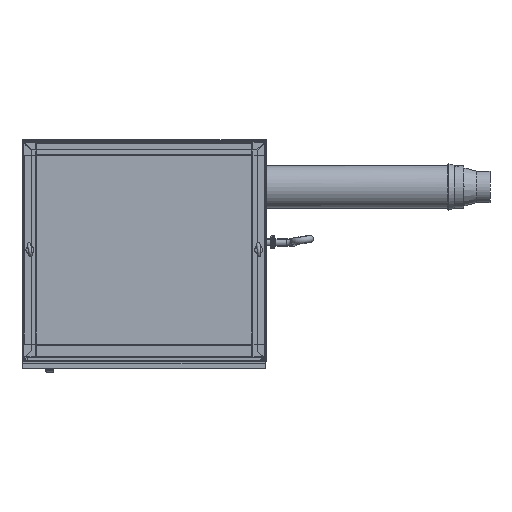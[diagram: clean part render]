
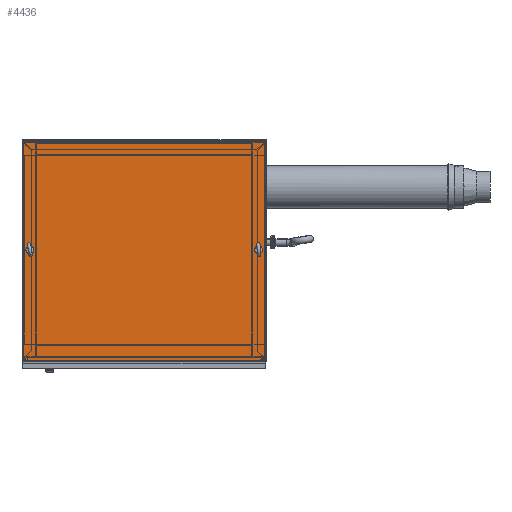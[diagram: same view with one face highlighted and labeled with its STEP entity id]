
A CAD part, top view. The second image highlights one B-rep face of the part: STEP entity #4436.
In plain terms, the highlighted planar face has unit normal (0, 0, 1).
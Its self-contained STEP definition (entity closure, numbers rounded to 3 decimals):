
#4436=ADVANCED_FACE('',(#20203,#20205,#20207),#20209,.T.);
#20203=FACE_BOUND('',#20204,.T.);
#20204=EDGE_LOOP('',(#38122,#38123,#38124,#38125,#38126,#38127,#38128,#38129));
#20205=FACE_BOUND('',#20206,.T.);
#20206=EDGE_LOOP('',(#38130));
#20207=FACE_BOUND('',#20208,.T.);
#20208=EDGE_LOOP('',(#38131));
#20209=PLANE('',#20210);
#20210=AXIS2_PLACEMENT_3D('',#20211,#20212,#20213);
#20211=CARTESIAN_POINT('',(-874.5,781.,54.5));
#20212=DIRECTION('',(0.,0.,1.));
#20213=DIRECTION('',(1.,0.,0.));
#38122=ORIENTED_EDGE('',*,*,#45509,.T.);
#38123=ORIENTED_EDGE('',*,*,#45600,.T.);
#38124=ORIENTED_EDGE('',*,*,#45501,.T.);
#38125=ORIENTED_EDGE('',*,*,#45134,.T.);
#38126=ORIENTED_EDGE('',*,*,#45519,.T.);
#38127=ORIENTED_EDGE('',*,*,#45601,.T.);
#38128=ORIENTED_EDGE('',*,*,#45512,.T.);
#38129=ORIENTED_EDGE('',*,*,#45602,.T.);
#38130=ORIENTED_EDGE('',*,*,#45603,.F.);
#38131=ORIENTED_EDGE('',*,*,#45604,.F.);
#45134=EDGE_CURVE('',#50143,#50144,#50145,.T.);
#45501=EDGE_CURVE('',#50688,#50143,#50691,.T.);
#45509=EDGE_CURVE('',#50701,#50703,#50705,.T.);
#45512=EDGE_CURVE('',#50706,#50708,#50710,.T.);
#45519=EDGE_CURVE('',#50144,#50720,#50722,.T.);
#45600=EDGE_CURVE('',#50703,#50688,#50842,.T.);
#45601=EDGE_CURVE('',#50720,#50706,#50843,.T.);
#45602=EDGE_CURVE('',#50708,#50701,#50844,.T.);
#45603=EDGE_CURVE('',#50845,#50845,#50846,.T.);
#45604=EDGE_CURVE('',#50847,#50847,#50848,.T.);
#50143=VERTEX_POINT('',#59944);
#50144=VERTEX_POINT('',#59945);
#50145=LINE('',#59946,#59947);
#50688=VERTEX_POINT('',#62042);
#50691=CIRCLE('',#62049,1.5);
#50701=VERTEX_POINT('',#62116);
#50703=VERTEX_POINT('',#62120);
#50705=CIRCLE('',#62124,1.5);
#50706=VERTEX_POINT('',#62128);
#50708=VERTEX_POINT('',#62132);
#50710=CIRCLE('',#62136,1.5);
#50720=VERTEX_POINT('',#62203);
#50722=CIRCLE('',#62207,1.5);
#50842=LINE('',#62558,#62559);
#50843=LINE('',#62561,#62562);
#50844=LINE('',#62564,#62565);
#50845=VERTEX_POINT('',#62567);
#50846=CIRCLE('',#62568,14.85);
#50847=VERTEX_POINT('',#62572);
#50848=CIRCLE('',#62573,14.85);
#59944=CARTESIAN_POINT('',(26.,-36.275,54.5));
#59945=CARTESIAN_POINT('',(26.,780.775,54.5));
#59946=CARTESIAN_POINT('',(26.,-36.275,54.5));
#59947=VECTOR('',#59948,1.);
#59948=DIRECTION('',(0.,1.,0.));
#62042=CARTESIAN_POINT('',(25.775,-36.5,54.5));
#62049=AXIS2_PLACEMENT_3D('',#62050,#62051,#62052);
#62050=CARTESIAN_POINT('',(26.942,-37.442,54.5));
#62051=DIRECTION('',(0.,0.,-1.));
#62052=DIRECTION('',(-0.778,0.628,0.));
#62116=CARTESIAN_POINT('',(-874.5,-36.275,54.5));
#62120=CARTESIAN_POINT('',(-874.275,-36.5,54.5));
#62124=AXIS2_PLACEMENT_3D('',#62125,#62126,#62127);
#62125=CARTESIAN_POINT('',(-875.442,-37.442,54.5));
#62126=DIRECTION('',(0.,0.,-1.));
#62127=DIRECTION('',(0.628,0.778,0.));
#62128=CARTESIAN_POINT('',(-874.275,781.,54.5));
#62132=CARTESIAN_POINT('',(-874.5,780.775,54.5));
#62136=AXIS2_PLACEMENT_3D('',#62137,#62138,#62139);
#62137=CARTESIAN_POINT('',(-875.442,781.942,54.5));
#62138=DIRECTION('',(0.,0.,-1.));
#62139=DIRECTION('',(0.778,-0.628,0.));
#62203=CARTESIAN_POINT('',(25.775,781.,54.5));
#62207=AXIS2_PLACEMENT_3D('',#62208,#62209,#62210);
#62208=CARTESIAN_POINT('',(26.942,781.942,54.5));
#62209=DIRECTION('',(0.,0.,-1.));
#62210=DIRECTION('',(-0.628,-0.778,0.));
#62558=CARTESIAN_POINT('',(-874.275,-36.5,54.5));
#62559=VECTOR('',#62560,1.);
#62560=DIRECTION('',(1.,0.,0.));
#62561=CARTESIAN_POINT('',(25.775,781.,54.5));
#62562=VECTOR('',#62563,1.);
#62563=DIRECTION('',(-1.,0.,0.));
#62564=CARTESIAN_POINT('',(-874.5,780.775,54.5));
#62565=VECTOR('',#62566,1.);
#62566=DIRECTION('',(0.,-1.,0.));
#62567=CARTESIAN_POINT('',(0.945,360.18,54.5));
#62568=AXIS2_PLACEMENT_3D('',#62569,#62570,#62571);
#62569=CARTESIAN_POINT('',(0.,375.,54.5));
#62570=DIRECTION('',(0.,0.,1.));
#62571=DIRECTION('',(0.064,-0.998,0.));
#62572=CARTESIAN_POINT('',(-847.418,360.376,54.5));
#62573=AXIS2_PLACEMENT_3D('',#62574,#62575,#62576);
#62574=CARTESIAN_POINT('',(-850.,375.,54.5));
#62575=DIRECTION('',(0.,0.,1.));
#62576=DIRECTION('',(0.174,-0.985,0.));
